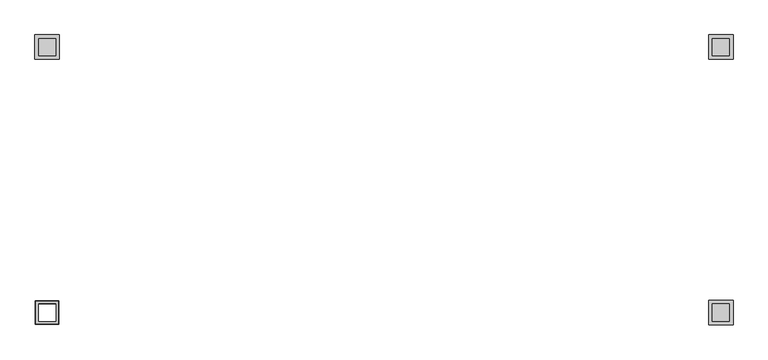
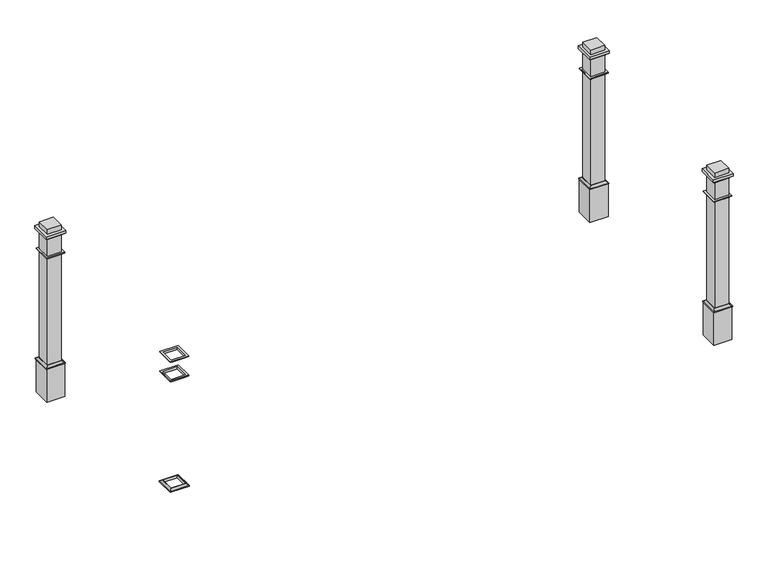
"""IFC4 building model written with IfcOpenShell, lengths in millimetres: railing geometry, Deco Type."""

from ifc_helpers import new_model, si_unit, frame, origin, place, context, project, spatial, polyline, ellipse_curve, outline, extrude, faceted_brep, source, transform, mapped, element, save
from ifc_brep_helpers import plane_surface, revolved_surface, advanced_brep


def railing_afaa1892(model_context):
    return source(origin(), model_context, "Body", "SolidModel", [
        advanced_brep(
        [(5407.8905852, -9796.5505549, 6197.6), (5287.2405852, -9796.5505549, 6197.6), (5287.2405852, -9796.5505549, 6219.825), (5407.8905852, -9796.5505549, 6219.825), (5430.1155852, -9818.7755549, 6203.95), (5265.0155852, -9818.7755549, 6203.95), (5265.0155852, -9818.7755549, 6197.6), (5430.1155852, -9818.7755549, 6197.6), (5414.2405852, -9802.9005549, 6219.825), (5280.8905852, -9802.9005549, 6219.825), (5287.2405852, -9675.9005549, 6197.6), (5287.2405852, -9675.9005549, 6219.825), (5265.0155852, -9653.6755549, 6203.95), (5265.0155852, -9653.6755549, 6197.6), (5280.8905852, -9669.5505549, 6219.825), (5407.8905852, -9675.9005549, 6197.6), (5407.8905852, -9675.9005549, 6219.825), (5430.1155852, -9653.6755549, 6203.95), (5430.1155852, -9653.6755549, 6197.6), (5414.2405852, -9669.5505549, 6219.825)],
        [
            (0, 1),
            (1, 2),
            (2, 3),
            (3, 0),
            (4, 5),
            (5, 6),
            (6, 7),
            (7, 4),
            (8, 9),
            (9, 5, ellipse_curve(frame((5265.0155852, -9818.7755549, 6219.825), z_axis=(-0.7071067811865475, 0.7071067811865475, 0.0), x_axis=(-0.7071067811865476, -0.7071067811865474, 0.0)), 22.4506403, 15.875)),
            (4, 8, ellipse_curve(frame((5430.1155852, -9818.7755549, 6219.825), z_axis=(0.7071067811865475, 0.7071067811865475, 0.0), x_axis=(-0.7071067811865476, 0.7071067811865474, 0.0)), 22.4506403, 15.875)),
            (1, 10),
            (10, 11),
            (11, 2),
            (5, 12),
            (12, 13),
            (13, 6),
            (9, 14),
            (14, 12, ellipse_curve(frame((5265.0155852, -9653.6755549, 6219.825), z_axis=(0.7071067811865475, 0.7071067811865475, 0.0), x_axis=(-0.7071067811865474, 0.7071067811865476, 0.0)), 22.4506403, 15.875)),
            (10, 15),
            (15, 16),
            (16, 11),
            (12, 17),
            (17, 18),
            (18, 13),
            (14, 19),
            (19, 17, ellipse_curve(frame((5430.1155852, -9653.6755549, 6219.825), z_axis=(0.7071067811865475, -0.7071067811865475, 0.0), x_axis=(0.7071067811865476, 0.7071067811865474, 0.0)), 22.4506403, 15.875)),
            (15, 0),
            (3, 16),
            (18, 7),
            (17, 4),
            (19, 8),
        ],
        [
            plane_surface(frame((5407.8905852, -9796.5505549, 6219.825), z_axis=(0.0, 1.0, 0.0), x_axis=(-1.0, 0.0, 0.0))),
            plane_surface(frame((5430.1155852, -9818.7755549, 6197.6), z_axis=(0.0, -1.0, 0.0), x_axis=(-1.0, 0.0, 0.0))),
            revolved_surface(polyline([(5249.14058520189, -9802.9005549, 6219.825), (5445.99058519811, -9802.9005549, 6219.825)]), (5407.8905852, -9818.7755549, 6219.825), (-1.0, 0.0, 0.0)),
            plane_surface(frame((5287.2405852, -9796.5505549, 6219.825), z_axis=(1.0, 0.0, 0.0), x_axis=(0.0, 1.0, 0.0))),
            plane_surface(frame((5265.0155852, -9818.7755549, 6197.6), z_axis=(-1.0, 0.0, 0.0), x_axis=(0.0, 1.0, 0.0))),
            revolved_surface(polyline([(5280.8905852, -9637.80055490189, 6219.825), (5280.8905852, -9834.65055489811, 6219.825)]), (5265.0155852, -9796.5505549, 6219.825), (0.0, 1.0, 0.0)),
            plane_surface(frame((5287.2405852, -9675.9005549, 6219.825), z_axis=(0.0, -1.0, 0.0), x_axis=(1.0, 0.0, 0.0))),
            plane_surface(frame((5265.0155852, -9653.6755549, 6197.6), z_axis=(0.0, 1.0, 0.0), x_axis=(1.0, 0.0, 0.0))),
            revolved_surface(polyline([(5445.99058519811, -9669.5505549, 6219.825), (5249.14058520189, -9669.5505549, 6219.825)]), (5287.2405852, -9653.6755549, 6219.825), (1.0, 0.0, 0.0)),
            plane_surface(frame((5407.8905852, -9675.9005549, 6219.825), z_axis=(-1.0, 0.0, 0.0), x_axis=(0.0, -1.0, 0.0))),
            plane_surface(frame((5407.8905852, -9675.9005549, 6197.6), z_axis=(0.0, 0.0, -1.0), x_axis=(0.0, -1.0, 0.0))),
            plane_surface(frame((5430.1155852, -9653.6755549, 6197.6), z_axis=(1.0, 0.0, 0.0), x_axis=(0.0, -1.0, 0.0))),
            revolved_surface(polyline([(5414.2405852, -9834.65055489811, 6219.825), (5414.2405852, -9637.80055490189, 6219.825)]), (5430.1155852, -9675.9005549, 6219.825), (0.0, -1.0, 0.0)),
            plane_surface(frame((5414.2405852, -9669.5505549, 6219.825), z_axis=(0.0, 0.0, 1.0), x_axis=(0.0, -1.0, 0.0))),
        ],
        [
            (0, [[1, 2, 3, 4]]),
            (1, [[5, 6, 7, 8]]),
            (2, [[9, 10, -5, 11]]),
            (3, [[12, 13, 14, -2]]),
            (4, [[15, 16, 17, -6]]),
            (5, [[18, 19, -15, -10]]),
            (6, [[20, 21, 22, -13]]),
            (7, [[23, 24, 25, -16]]),
            (8, [[26, 27, -23, -19]]),
            (9, [[28, -4, 29, -21]]),
            (10, [[-7, -17, -25, 30], [-1, -28, -20, -12]]),
            (11, [[31, -8, -30, -24]]),
            (12, [[32, -11, -31, -27]]),
            (13, [[-9, -32, -26, -18], [-3, -14, -22, -29]]),
        ],
    ),
        advanced_brep(
        [(5407.8905852, -9796.5505549, 7204.075), (5287.2405852, -9796.5505549, 7204.075), (5287.2405852, -9796.5505549, 7223.125), (5407.8905852, -9796.5505549, 7223.125), (5426.9405852, -9815.6005549, 7216.775), (5268.1905852, -9815.6005549, 7216.775), (5280.8905852, -9802.9005549, 7204.075), (5414.2405852, -9802.9005549, 7204.075), (5426.9405852, -9815.6005549, 7223.125), (5268.1905852, -9815.6005549, 7223.125), (5287.2405852, -9675.9005549, 7204.075), (5287.2405852, -9675.9005549, 7223.125), (5268.1905852, -9656.8505549, 7216.775), (5280.8905852, -9669.5505549, 7204.075), (5268.1905852, -9656.8505549, 7223.125), (5407.8905852, -9675.9005549, 7204.075), (5407.8905852, -9675.9005549, 7223.125), (5426.9405852, -9656.8505549, 7216.775), (5414.2405852, -9669.5505549, 7204.075), (5426.9405852, -9656.8505549, 7223.125)],
        [
            (0, 1),
            (1, 2),
            (2, 3),
            (3, 0),
            (4, 5),
            (5, 6, ellipse_curve(frame((5268.1905852, -9815.6005549, 7204.075), z_axis=(-0.7071067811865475, 0.7071067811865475, 0.0), x_axis=(-0.7071067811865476, -0.7071067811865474, 0.0)), 17.9605122, 12.7)),
            (6, 7),
            (7, 4, ellipse_curve(frame((5426.9405852, -9815.6005549, 7204.075), z_axis=(0.7071067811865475, 0.7071067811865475, 0.0), x_axis=(-0.7071067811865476, 0.7071067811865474, 0.0)), 17.9605122, 12.7)),
            (8, 9),
            (9, 5),
            (4, 8),
            (1, 10),
            (10, 11),
            (11, 2),
            (5, 12),
            (12, 13, ellipse_curve(frame((5268.1905852, -9656.8505549, 7204.075), z_axis=(0.7071067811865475, 0.7071067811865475, 0.0), x_axis=(-0.7071067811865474, 0.7071067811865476, 0.0)), 17.9605122, 12.7)),
            (13, 6),
            (9, 14),
            (14, 12),
            (10, 15),
            (15, 16),
            (16, 11),
            (12, 17),
            (17, 18, ellipse_curve(frame((5426.9405852, -9656.8505549, 7204.075), z_axis=(0.7071067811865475, -0.7071067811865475, 0.0), x_axis=(0.7071067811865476, 0.7071067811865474, 0.0)), 17.9605122, 12.7)),
            (18, 13),
            (14, 19),
            (19, 17),
            (8, 19),
            (16, 3),
            (15, 0),
            (18, 7),
            (17, 4),
        ],
        [
            plane_surface(frame((5407.8905852, -9796.5505549, 7223.125), z_axis=(0.0, 1.0, 0.0), x_axis=(-1.0, 0.0, 0.0))),
            revolved_surface(polyline([(5255.490585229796, -9802.9005549, 7204.075), (5439.640585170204, -9802.9005549, 7204.075)]), (5407.8905852, -9815.6005549, 7204.075), (-1.0, 0.0, 0.0)),
            plane_surface(frame((5426.9405852, -9815.6005549, 7216.775), z_axis=(0.0, -1.0, 0.0), x_axis=(-1.0, 0.0, 0.0))),
            plane_surface(frame((5287.2405852, -9796.5505549, 7223.125), z_axis=(1.0, 0.0, 0.0), x_axis=(0.0, 1.0, 0.0))),
            revolved_surface(polyline([(5280.8905852, -9644.150554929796, 7204.075), (5280.8905852, -9828.300554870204, 7204.075)]), (5268.1905852, -9796.5505549, 7204.075), (0.0, 1.0, 0.0)),
            plane_surface(frame((5268.1905852, -9815.6005549, 7216.775), z_axis=(-1.0, 0.0, 0.0), x_axis=(0.0, 1.0, 0.0))),
            plane_surface(frame((5287.2405852, -9675.9005549, 7223.125), z_axis=(0.0, -1.0, 0.0), x_axis=(1.0, 0.0, 0.0))),
            revolved_surface(polyline([(5439.640585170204, -9669.5505549, 7204.075), (5255.490585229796, -9669.5505549, 7204.075)]), (5287.2405852, -9656.8505549, 7204.075), (1.0, 0.0, 0.0)),
            plane_surface(frame((5268.1905852, -9656.8505549, 7216.775), z_axis=(0.0, 1.0, 0.0), x_axis=(1.0, 0.0, 0.0))),
            plane_surface(frame((5426.9405852, -9656.8505549, 7223.125), z_axis=(0.0, 0.0, 1.0), x_axis=(0.0, -1.0, 0.0))),
            plane_surface(frame((5407.8905852, -9675.9005549, 7223.125), z_axis=(-1.0, 0.0, 0.0), x_axis=(0.0, -1.0, 0.0))),
            plane_surface(frame((5407.8905852, -9675.9005549, 7204.075), z_axis=(0.0, 0.0, -1.0), x_axis=(0.0, -1.0, 0.0))),
            revolved_surface(polyline([(5414.2405852, -9828.300554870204, 7204.075), (5414.2405852, -9644.150554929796, 7204.075)]), (5426.9405852, -9675.9005549, 7204.075), (0.0, -1.0, 0.0)),
            plane_surface(frame((5426.9405852, -9656.8505549, 7216.775), z_axis=(1.0, 0.0, 0.0), x_axis=(0.0, -1.0, 0.0))),
        ],
        [
            (0, [[1, 2, 3, 4]]),
            (1, [[5, 6, 7, 8]]),
            (2, [[9, 10, -5, 11]]),
            (3, [[12, 13, 14, -2]]),
            (4, [[15, 16, 17, -6]]),
            (5, [[18, 19, -15, -10]]),
            (6, [[20, 21, 22, -13]]),
            (7, [[23, 24, 25, -16]]),
            (8, [[26, 27, -23, -19]]),
            (9, [[-9, 28, -26, -18], [-3, -14, -22, 29]]),
            (10, [[30, -4, -29, -21]]),
            (11, [[-7, -17, -25, 31], [-1, -30, -20, -12]]),
            (12, [[32, -8, -31, -24]]),
            (13, [[-28, -11, -32, -27]]),
        ],
    ),
        faceted_brep([(5407.8905852, -9796.5505549, 7381.875), (5287.2405852, -9796.5505549, 7381.875), (5287.2405852, -9796.5505549, 7400.925), (5407.8905852, -9796.5505549, 7400.925), (5414.2405852, -9802.9005549, 7394.575), (5280.8905852, -9802.9005549, 7394.575), (5280.8905852, -9802.9005549, 7381.875), (5414.2405852, -9802.9005549, 7381.875), (5426.9405852, -9815.6005549, 7400.925), (5268.1905852, -9815.6005549, 7400.925), (5268.1905852, -9815.6005549, 7394.575), (5426.9405852, -9815.6005549, 7394.575), (5287.2405852, -9675.9005549, 7381.875), (5287.2405852, -9675.9005549, 7400.925), (5280.8905852, -9669.5505549, 7394.575), (5280.8905852, -9669.5505549, 7381.875), (5268.1905852, -9656.8505549, 7400.925), (5268.1905852, -9656.8505549, 7394.575), (5407.8905852, -9675.9005549, 7381.875), (5407.8905852, -9675.9005549, 7400.925), (5414.2405852, -9669.5505549, 7394.575), (5414.2405852, -9669.5505549, 7381.875), (5426.9405852, -9656.8505549, 7400.925), (5426.9405852, -9656.8505549, 7394.575)], [[[0, 1, 2, 3]], [[4, 5, 6, 7]], [[8, 9, 10, 11]], [[1, 12, 13, 2]], [[5, 14, 15, 6]], [[9, 16, 17, 10]], [[12, 18, 19, 13]], [[14, 20, 21, 15]], [[16, 22, 23, 17]], [[18, 0, 3, 19]], [[7, 6, 15, 21], [1, 0, 18, 12]], [[20, 4, 7, 21]], [[11, 10, 17, 23], [5, 4, 20, 14]], [[22, 8, 11, 23]], [[9, 8, 22, 16], [3, 2, 13, 19]]]),
        extrude(outline(polyline([(10010.8468352, -9656.8505549), (10169.5968352, -9656.8505549), (10169.5968352, -9815.6005549), (10010.8468352, -9815.6005549), (10010.8468352, -9656.8505549)])), frame((0.0, 0.0, 5892.8), z_axis=(0.0, 0.0, 1.0), x_axis=(1.0, 0.0, 0.0)), (0.0, 0.0, 1.0), 304.8),
        extrude(outline(polyline([(10029.8968352, -9675.9005549), (10150.5468352, -9675.9005549), (10150.5468352, -9796.5505549), (10029.8968352, -9796.5505549), (10029.8968352, -9675.9005549)])), frame((0.0, 0.0, 6197.6), z_axis=(0.0, 0.0, 1.0), x_axis=(1.0, 0.0, 0.0)), (0.0, 0.0, 1.0), 1270.0),
        extrude(outline(polyline([(10175.9468352, -9650.5005549), (10175.9468352, -9821.9505549), (10004.4968352, -9821.9505549), (10004.4968352, -9650.5005549), (10175.9468352, -9650.5005549)]), holes=[polyline([(10150.5468352, -9796.5505549), (10150.5468352, -9675.9005549), (10029.8968352, -9675.9005549), (10029.8968352, -9796.5505549), (10150.5468352, -9796.5505549)])]), frame((0.0, 0.0, 7400.925), z_axis=(0.0, 0.0, 1.0), x_axis=(1.0, 0.0, 0.0)), (0.0, 0.0, 1.0), 25.4),
        advanced_brep(
        [(10150.5468352, -9675.9005549, 6197.6), (10150.5468352, -9796.5505549, 6197.6), (10150.5468352, -9796.5505549, 6219.825), (10150.5468352, -9675.9005549, 6219.825), (10172.7718352, -9653.6755549, 6203.95), (10172.7718352, -9818.7755549, 6203.95), (10172.7718352, -9818.7755549, 6197.6), (10172.7718352, -9653.6755549, 6197.6), (10156.8968352, -9669.5505549, 6219.825), (10156.8968352, -9802.9005549, 6219.825), (10029.8968352, -9796.5505549, 6197.6), (10029.8968352, -9796.5505549, 6219.825), (10007.6718352, -9818.7755549, 6203.95), (10007.6718352, -9818.7755549, 6197.6), (10023.5468352, -9802.9005549, 6219.825), (10029.8968352, -9675.9005549, 6197.6), (10029.8968352, -9675.9005549, 6219.825), (10007.6718352, -9653.6755549, 6203.95), (10007.6718352, -9653.6755549, 6197.6), (10023.5468352, -9669.5505549, 6219.825)],
        [
            (0, 1),
            (1, 2),
            (2, 3),
            (3, 0),
            (4, 5),
            (5, 6),
            (6, 7),
            (7, 4),
            (8, 9),
            (9, 5, ellipse_curve(frame((10172.7718352, -9818.7755549, 6219.825), z_axis=(-0.7071067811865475, -0.7071067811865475, 0.0), x_axis=(0.7071067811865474, -0.7071067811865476, 0.0)), 22.4506403, 15.875)),
            (4, 8, ellipse_curve(frame((10172.7718352, -9653.6755549, 6219.825), z_axis=(-0.7071067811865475, 0.7071067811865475, 0.0), x_axis=(-0.7071067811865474, -0.7071067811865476, 0.0)), 22.4506403, 15.875)),
            (1, 10),
            (10, 11),
            (11, 2),
            (5, 12),
            (12, 13),
            (13, 6),
            (9, 14),
            (14, 12, ellipse_curve(frame((10007.6718352, -9818.7755549, 6219.825), z_axis=(-0.7071067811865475, 0.7071067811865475, 0.0), x_axis=(-0.7071067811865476, -0.7071067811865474, 0.0)), 22.4506403, 15.875)),
            (10, 15),
            (15, 16),
            (16, 11),
            (12, 17),
            (17, 18),
            (18, 13),
            (14, 19),
            (19, 17, ellipse_curve(frame((10007.6718352, -9653.6755549, 6219.825), z_axis=(0.7071067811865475, 0.7071067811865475, 0.0), x_axis=(-0.7071067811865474, 0.7071067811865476, 0.0)), 22.4506403, 15.875)),
            (15, 0),
            (3, 16),
            (18, 7),
            (17, 4),
            (19, 8),
        ],
        [
            plane_surface(frame((10150.5468352, -9675.9005549, 6219.825), z_axis=(-1.0, 0.0, 0.0), x_axis=(0.0, -1.0, 0.0))),
            plane_surface(frame((10172.7718352, -9653.6755549, 6197.6), z_axis=(1.0, 0.0, 0.0), x_axis=(0.0, -1.0, 0.0))),
            revolved_surface(polyline([(10156.8968352, -9834.65055489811, 6219.825), (10156.8968352, -9637.80055490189, 6219.825)]), (10172.7718352, -9675.9005549, 6219.825), (0.0, -1.0, 0.0)),
            plane_surface(frame((10150.5468352, -9796.5505549, 6219.825), z_axis=(0.0, 1.0, 0.0), x_axis=(-1.0, 0.0, 0.0))),
            plane_surface(frame((10172.7718352, -9818.7755549, 6197.6), z_axis=(0.0, -1.0, 0.0), x_axis=(-1.0, 0.0, 0.0))),
            revolved_surface(polyline([(9991.79683520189, -9802.9005549, 6219.825), (10188.64683519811, -9802.9005549, 6219.825)]), (10150.5468352, -9818.7755549, 6219.825), (-1.0, 0.0, 0.0)),
            plane_surface(frame((10029.8968352, -9796.5505549, 6219.825), z_axis=(1.0, 0.0, 0.0), x_axis=(0.0, 1.0, 0.0))),
            plane_surface(frame((10007.6718352, -9818.7755549, 6197.6), z_axis=(-1.0, 0.0, 0.0), x_axis=(0.0, 1.0, 0.0))),
            revolved_surface(polyline([(10023.5468352, -9637.80055490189, 6219.825), (10023.5468352, -9834.65055489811, 6219.825)]), (10007.6718352, -9796.5505549, 6219.825), (0.0, 1.0, 0.0)),
            plane_surface(frame((10029.8968352, -9675.9005549, 6219.825), z_axis=(0.0, -1.0, 0.0), x_axis=(1.0, 0.0, 0.0))),
            plane_surface(frame((10029.8968352, -9675.9005549, 6197.6), z_axis=(0.0, 0.0, -1.0), x_axis=(1.0, 0.0, 0.0))),
            plane_surface(frame((10007.6718352, -9653.6755549, 6197.6), z_axis=(0.0, 1.0, 0.0), x_axis=(1.0, 0.0, 0.0))),
            revolved_surface(polyline([(10188.64683519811, -9669.5505549, 6219.825), (9991.79683520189, -9669.5505549, 6219.825)]), (10029.8968352, -9653.6755549, 6219.825), (1.0, 0.0, 0.0)),
            plane_surface(frame((10023.5468352, -9669.5505549, 6219.825), z_axis=(0.0, 0.0, 1.0), x_axis=(1.0, 0.0, 0.0))),
        ],
        [
            (0, [[1, 2, 3, 4]]),
            (1, [[5, 6, 7, 8]]),
            (2, [[9, 10, -5, 11]]),
            (3, [[12, 13, 14, -2]]),
            (4, [[15, 16, 17, -6]]),
            (5, [[18, 19, -15, -10]]),
            (6, [[20, 21, 22, -13]]),
            (7, [[23, 24, 25, -16]]),
            (8, [[26, 27, -23, -19]]),
            (9, [[28, -4, 29, -21]]),
            (10, [[-7, -17, -25, 30], [-1, -28, -20, -12]]),
            (11, [[31, -8, -30, -24]]),
            (12, [[32, -11, -31, -27]]),
            (13, [[-9, -32, -26, -18], [-3, -14, -22, -29]]),
        ],
    ),
        advanced_brep(
        [(10150.5468352, -9675.9005549, 7204.075), (10150.5468352, -9796.5505549, 7204.075), (10150.5468352, -9796.5505549, 7223.125), (10150.5468352, -9675.9005549, 7223.125), (10169.5968352, -9656.8505549, 7216.775), (10169.5968352, -9815.6005549, 7216.775), (10156.8968352, -9802.9005549, 7204.075), (10156.8968352, -9669.5505549, 7204.075), (10169.5968352, -9656.8505549, 7223.125), (10169.5968352, -9815.6005549, 7223.125), (10029.8968352, -9796.5505549, 7204.075), (10029.8968352, -9796.5505549, 7223.125), (10010.8468352, -9815.6005549, 7216.775), (10023.5468352, -9802.9005549, 7204.075), (10010.8468352, -9815.6005549, 7223.125), (10029.8968352, -9675.9005549, 7204.075), (10029.8968352, -9675.9005549, 7223.125), (10010.8468352, -9656.8505549, 7216.775), (10023.5468352, -9669.5505549, 7204.075), (10010.8468352, -9656.8505549, 7223.125)],
        [
            (0, 1),
            (1, 2),
            (2, 3),
            (3, 0),
            (4, 5),
            (5, 6, ellipse_curve(frame((10169.5968352, -9815.6005549, 7204.075), z_axis=(-0.7071067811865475, -0.7071067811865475, 0.0), x_axis=(0.7071067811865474, -0.7071067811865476, 0.0)), 17.9605122, 12.7)),
            (6, 7),
            (7, 4, ellipse_curve(frame((10169.5968352, -9656.8505549, 7204.075), z_axis=(-0.7071067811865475, 0.7071067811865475, 0.0), x_axis=(-0.7071067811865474, -0.7071067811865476, 0.0)), 17.9605122, 12.7)),
            (8, 9),
            (9, 5),
            (4, 8),
            (1, 10),
            (10, 11),
            (11, 2),
            (5, 12),
            (12, 13, ellipse_curve(frame((10010.8468352, -9815.6005549, 7204.075), z_axis=(-0.7071067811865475, 0.7071067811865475, 0.0), x_axis=(-0.7071067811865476, -0.7071067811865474, 0.0)), 17.9605122, 12.7)),
            (13, 6),
            (9, 14),
            (14, 12),
            (10, 15),
            (15, 16),
            (16, 11),
            (12, 17),
            (17, 18, ellipse_curve(frame((10010.8468352, -9656.8505549, 7204.075), z_axis=(0.7071067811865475, 0.7071067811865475, 0.0), x_axis=(-0.7071067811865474, 0.7071067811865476, 0.0)), 17.9605122, 12.7)),
            (18, 13),
            (14, 19),
            (19, 17),
            (8, 19),
            (16, 3),
            (15, 0),
            (18, 7),
            (17, 4),
        ],
        [
            plane_surface(frame((10150.5468352, -9675.9005549, 7223.125), z_axis=(-1.0, 0.0, 0.0), x_axis=(0.0, -1.0, 0.0))),
            revolved_surface(polyline([(10156.8968352, -9828.300554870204, 7204.075), (10156.8968352, -9644.150554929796, 7204.075)]), (10169.5968352, -9675.9005549, 7204.075), (0.0, -1.0, 0.0)),
            plane_surface(frame((10169.5968352, -9656.8505549, 7216.775), z_axis=(1.0, 0.0, 0.0), x_axis=(0.0, -1.0, 0.0))),
            plane_surface(frame((10150.5468352, -9796.5505549, 7223.125), z_axis=(0.0, 1.0, 0.0), x_axis=(-1.0, 0.0, 0.0))),
            revolved_surface(polyline([(9998.146835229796, -9802.9005549, 7204.075), (10182.296835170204, -9802.9005549, 7204.075)]), (10150.5468352, -9815.6005549, 7204.075), (-1.0, 0.0, 0.0)),
            plane_surface(frame((10169.5968352, -9815.6005549, 7216.775), z_axis=(0.0, -1.0, 0.0), x_axis=(-1.0, 0.0, 0.0))),
            plane_surface(frame((10029.8968352, -9796.5505549, 7223.125), z_axis=(1.0, 0.0, 0.0), x_axis=(0.0, 1.0, 0.0))),
            revolved_surface(polyline([(10023.5468352, -9644.150554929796, 7204.075), (10023.5468352, -9828.300554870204, 7204.075)]), (10010.8468352, -9796.5505549, 7204.075), (0.0, 1.0, 0.0)),
            plane_surface(frame((10010.8468352, -9815.6005549, 7216.775), z_axis=(-1.0, 0.0, 0.0), x_axis=(0.0, 1.0, 0.0))),
            plane_surface(frame((10010.8468352, -9656.8505549, 7223.125), z_axis=(0.0, 0.0, 1.0), x_axis=(1.0, 0.0, 0.0))),
            plane_surface(frame((10029.8968352, -9675.9005549, 7223.125), z_axis=(0.0, -1.0, 0.0), x_axis=(1.0, 0.0, 0.0))),
            plane_surface(frame((10029.8968352, -9675.9005549, 7204.075), z_axis=(0.0, 0.0, -1.0), x_axis=(1.0, 0.0, 0.0))),
            revolved_surface(polyline([(10182.296835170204, -9669.5505549, 7204.075), (9998.146835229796, -9669.5505549, 7204.075)]), (10029.8968352, -9656.8505549, 7204.075), (1.0, 0.0, 0.0)),
            plane_surface(frame((10010.8468352, -9656.8505549, 7216.775), z_axis=(0.0, 1.0, 0.0), x_axis=(1.0, 0.0, 0.0))),
        ],
        [
            (0, [[1, 2, 3, 4]]),
            (1, [[5, 6, 7, 8]]),
            (2, [[9, 10, -5, 11]]),
            (3, [[12, 13, 14, -2]]),
            (4, [[15, 16, 17, -6]]),
            (5, [[18, 19, -15, -10]]),
            (6, [[20, 21, 22, -13]]),
            (7, [[23, 24, 25, -16]]),
            (8, [[26, 27, -23, -19]]),
            (9, [[-9, 28, -26, -18], [-3, -14, -22, 29]]),
            (10, [[30, -4, -29, -21]]),
            (11, [[-7, -17, -25, 31], [-1, -30, -20, -12]]),
            (12, [[32, -8, -31, -24]]),
            (13, [[-28, -11, -32, -27]]),
        ],
    ),
        faceted_brep([(10150.5468352, -9675.9005549, 7381.875), (10150.5468352, -9796.5505549, 7381.875), (10150.5468352, -9796.5505549, 7400.925), (10150.5468352, -9675.9005549, 7400.925), (10156.8968352, -9669.5505549, 7394.575), (10156.8968352, -9802.9005549, 7394.575), (10156.8968352, -9802.9005549, 7381.875), (10156.8968352, -9669.5505549, 7381.875), (10169.5968352, -9656.8505549, 7400.925), (10169.5968352, -9815.6005549, 7400.925), (10169.5968352, -9815.6005549, 7394.575), (10169.5968352, -9656.8505549, 7394.575), (10029.8968352, -9796.5505549, 7381.875), (10029.8968352, -9796.5505549, 7400.925), (10023.5468352, -9802.9005549, 7394.575), (10023.5468352, -9802.9005549, 7381.875), (10010.8468352, -9815.6005549, 7400.925), (10010.8468352, -9815.6005549, 7394.575), (10029.8968352, -9675.9005549, 7381.875), (10029.8968352, -9675.9005549, 7400.925), (10023.5468352, -9669.5505549, 7394.575), (10023.5468352, -9669.5505549, 7381.875), (10010.8468352, -9656.8505549, 7400.925), (10010.8468352, -9656.8505549, 7394.575)], [[[0, 1, 2, 3]], [[4, 5, 6, 7]], [[8, 9, 10, 11]], [[1, 12, 13, 2]], [[5, 14, 15, 6]], [[9, 16, 17, 10]], [[12, 18, 19, 13]], [[14, 20, 21, 15]], [[16, 22, 23, 17]], [[18, 0, 3, 19]], [[7, 6, 15, 21], [1, 0, 18, 12]], [[20, 4, 7, 21]], [[11, 10, 17, 23], [5, 4, 20, 14]], [[22, 8, 11, 23]], [[9, 8, 22, 16], [3, 2, 13, 19]]]),
        extrude(outline(polyline([(5426.9405852, -7943.5411799), (5268.1905852, -7943.5411799), (5268.1905852, -7784.7911799), (5426.9405852, -7784.7911799), (5426.9405852, -7943.5411799)])), frame((0.0, 0.0, 5892.8), z_axis=(0.0, 0.0, 1.0), x_axis=(1.0, 0.0, 0.0)), (0.0, 0.0, 1.0), 304.8),
        extrude(outline(polyline([(5407.8905852, -7924.4911799), (5287.2405852, -7924.4911799), (5287.2405852, -7803.8411799), (5407.8905852, -7803.8411799), (5407.8905852, -7924.4911799)])), frame((0.0, 0.0, 6197.6), z_axis=(0.0, 0.0, 1.0), x_axis=(1.0, 0.0, 0.0)), (0.0, 0.0, 1.0), 1270.0),
        extrude(outline(polyline([(5261.8405852, -7949.8911799), (5261.8405852, -7778.4411799), (5433.2905852, -7778.4411799), (5433.2905852, -7949.8911799), (5261.8405852, -7949.8911799)]), holes=[polyline([(5287.2405852, -7803.8411799), (5287.2405852, -7924.4911799), (5407.8905852, -7924.4911799), (5407.8905852, -7803.8411799), (5287.2405852, -7803.8411799)])]), frame((0.0, 0.0, 7400.925), z_axis=(0.0, 0.0, 1.0), x_axis=(1.0, 0.0, 0.0)), (0.0, 0.0, 1.0), 25.4),
        advanced_brep(
        [(5287.2405852, -7924.4911799, 6197.6), (5287.2405852, -7803.8411799, 6197.6), (5287.2405852, -7803.8411799, 6219.825), (5287.2405852, -7924.4911799, 6219.825), (5265.0155852, -7946.7161799, 6203.95), (5265.0155852, -7781.6161799, 6203.95), (5265.0155852, -7781.6161799, 6197.6), (5265.0155852, -7946.7161799, 6197.6), (5280.8905852, -7930.8411799, 6219.825), (5280.8905852, -7797.4911799, 6219.825), (5407.8905852, -7803.8411799, 6197.6), (5407.8905852, -7803.8411799, 6219.825), (5430.1155852, -7781.6161799, 6203.95), (5430.1155852, -7781.6161799, 6197.6), (5414.2405852, -7797.4911799, 6219.825), (5407.8905852, -7924.4911799, 6197.6), (5407.8905852, -7924.4911799, 6219.825), (5430.1155852, -7946.7161799, 6203.95), (5430.1155852, -7946.7161799, 6197.6), (5414.2405852, -7930.8411799, 6219.825)],
        [
            (0, 1),
            (1, 2),
            (2, 3),
            (3, 0),
            (4, 5),
            (5, 6),
            (6, 7),
            (7, 4),
            (8, 9),
            (9, 5, ellipse_curve(frame((5265.0155852, -7781.6161799, 6219.825), z_axis=(0.7071067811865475, 0.7071067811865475, 0.0), x_axis=(-0.7071067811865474, 0.7071067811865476, 0.0)), 22.4506403, 15.875)),
            (4, 8, ellipse_curve(frame((5265.0155852, -7946.7161799, 6219.825), z_axis=(0.7071067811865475, -0.7071067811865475, 0.0), x_axis=(0.7071067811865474, 0.7071067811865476, 0.0)), 22.4506403, 15.875)),
            (1, 10),
            (10, 11),
            (11, 2),
            (5, 12),
            (12, 13),
            (13, 6),
            (9, 14),
            (14, 12, ellipse_curve(frame((5430.1155852, -7781.6161799, 6219.825), z_axis=(0.7071067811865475, -0.7071067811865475, 0.0), x_axis=(0.7071067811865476, 0.7071067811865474, 0.0)), 22.4506403, 15.875)),
            (10, 15),
            (15, 16),
            (16, 11),
            (12, 17),
            (17, 18),
            (18, 13),
            (14, 19),
            (19, 17, ellipse_curve(frame((5430.1155852, -7946.7161799, 6219.825), z_axis=(-0.7071067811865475, -0.7071067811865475, 0.0), x_axis=(0.7071067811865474, -0.7071067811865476, 0.0)), 22.4506403, 15.875)),
            (15, 0),
            (3, 16),
            (18, 7),
            (17, 4),
            (19, 8),
        ],
        [
            plane_surface(frame((5287.2405852, -7924.4911799, 6219.825), z_axis=(1.0, 0.0, 0.0), x_axis=(0.0, 1.0, 0.0))),
            plane_surface(frame((5265.0155852, -7946.7161799, 6197.6), z_axis=(-1.0, 0.0, 0.0), x_axis=(0.0, 1.0, 0.0))),
            revolved_surface(polyline([(5280.8905852, -7765.74117990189, 6219.825), (5280.8905852, -7962.59117989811, 6219.825)]), (5265.0155852, -7924.4911799, 6219.825), (0.0, 1.0, 0.0)),
            plane_surface(frame((5287.2405852, -7803.8411799, 6219.825), z_axis=(0.0, -1.0, 0.0), x_axis=(1.0, 0.0, 0.0))),
            plane_surface(frame((5265.0155852, -7781.6161799, 6197.6), z_axis=(0.0, 1.0, 0.0), x_axis=(1.0, 0.0, 0.0))),
            revolved_surface(polyline([(5445.99058519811, -7797.4911799, 6219.825), (5249.14058520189, -7797.4911799, 6219.825)]), (5287.2405852, -7781.6161799, 6219.825), (1.0, 0.0, 0.0)),
            plane_surface(frame((5407.8905852, -7803.8411799, 6219.825), z_axis=(-1.0, 0.0, 0.0), x_axis=(0.0, -1.0, 0.0))),
            plane_surface(frame((5430.1155852, -7781.6161799, 6197.6), z_axis=(1.0, 0.0, 0.0), x_axis=(0.0, -1.0, 0.0))),
            revolved_surface(polyline([(5414.2405852, -7962.59117989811, 6219.825), (5414.2405852, -7765.74117990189, 6219.825)]), (5430.1155852, -7803.8411799, 6219.825), (0.0, -1.0, 0.0)),
            plane_surface(frame((5407.8905852, -7924.4911799, 6219.825), z_axis=(0.0, 1.0, 0.0), x_axis=(-1.0, 0.0, 0.0))),
            plane_surface(frame((5407.8905852, -7924.4911799, 6197.6), z_axis=(0.0, 0.0, -1.0), x_axis=(-1.0, 0.0, 0.0))),
            plane_surface(frame((5430.1155852, -7946.7161799, 6197.6), z_axis=(0.0, -1.0, 0.0), x_axis=(-1.0, 0.0, 0.0))),
            revolved_surface(polyline([(5249.14058520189, -7930.8411799, 6219.825), (5445.99058519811, -7930.8411799, 6219.825)]), (5407.8905852, -7946.7161799, 6219.825), (-1.0, 0.0, 0.0)),
            plane_surface(frame((5414.2405852, -7930.8411799, 6219.825), z_axis=(0.0, 0.0, 1.0), x_axis=(-1.0, 0.0, 0.0))),
        ],
        [
            (0, [[1, 2, 3, 4]]),
            (1, [[5, 6, 7, 8]]),
            (2, [[9, 10, -5, 11]]),
            (3, [[12, 13, 14, -2]]),
            (4, [[15, 16, 17, -6]]),
            (5, [[18, 19, -15, -10]]),
            (6, [[20, 21, 22, -13]]),
            (7, [[23, 24, 25, -16]]),
            (8, [[26, 27, -23, -19]]),
            (9, [[28, -4, 29, -21]]),
            (10, [[-7, -17, -25, 30], [-1, -28, -20, -12]]),
            (11, [[31, -8, -30, -24]]),
            (12, [[32, -11, -31, -27]]),
            (13, [[-9, -32, -26, -18], [-3, -14, -22, -29]]),
        ],
    ),
        advanced_brep(
        [(5287.2405852, -7924.4911799, 7204.075), (5287.2405852, -7803.8411799, 7204.075), (5287.2405852, -7803.8411799, 7223.125), (5287.2405852, -7924.4911799, 7223.125), (5268.1905852, -7943.5411799, 7216.775), (5268.1905852, -7784.7911799, 7216.775), (5280.8905852, -7797.4911799, 7204.075), (5280.8905852, -7930.8411799, 7204.075), (5268.1905852, -7943.5411799, 7223.125), (5268.1905852, -7784.7911799, 7223.125), (5407.8905852, -7803.8411799, 7204.075), (5407.8905852, -7803.8411799, 7223.125), (5426.9405852, -7784.7911799, 7216.775), (5414.2405852, -7797.4911799, 7204.075), (5426.9405852, -7784.7911799, 7223.125), (5407.8905852, -7924.4911799, 7204.075), (5407.8905852, -7924.4911799, 7223.125), (5426.9405852, -7943.5411799, 7216.775), (5414.2405852, -7930.8411799, 7204.075), (5426.9405852, -7943.5411799, 7223.125)],
        [
            (0, 1),
            (1, 2),
            (2, 3),
            (3, 0),
            (4, 5),
            (5, 6, ellipse_curve(frame((5268.1905852, -7784.7911799, 7204.075), z_axis=(0.7071067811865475, 0.7071067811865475, 0.0), x_axis=(-0.7071067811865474, 0.7071067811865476, 0.0)), 17.9605122, 12.7)),
            (6, 7),
            (7, 4, ellipse_curve(frame((5268.1905852, -7943.5411799, 7204.075), z_axis=(0.7071067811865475, -0.7071067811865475, 0.0), x_axis=(0.7071067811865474, 0.7071067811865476, 0.0)), 17.9605122, 12.7)),
            (8, 9),
            (9, 5),
            (4, 8),
            (1, 10),
            (10, 11),
            (11, 2),
            (5, 12),
            (12, 13, ellipse_curve(frame((5426.9405852, -7784.7911799, 7204.075), z_axis=(0.7071067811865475, -0.7071067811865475, 0.0), x_axis=(0.7071067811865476, 0.7071067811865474, 0.0)), 17.9605122, 12.7)),
            (13, 6),
            (9, 14),
            (14, 12),
            (10, 15),
            (15, 16),
            (16, 11),
            (12, 17),
            (17, 18, ellipse_curve(frame((5426.9405852, -7943.5411799, 7204.075), z_axis=(-0.7071067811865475, -0.7071067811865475, 0.0), x_axis=(0.7071067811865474, -0.7071067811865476, 0.0)), 17.9605122, 12.7)),
            (18, 13),
            (14, 19),
            (19, 17),
            (8, 19),
            (16, 3),
            (15, 0),
            (18, 7),
            (17, 4),
        ],
        [
            plane_surface(frame((5287.2405852, -7924.4911799, 7223.125), z_axis=(1.0, 0.0, 0.0), x_axis=(0.0, 1.0, 0.0))),
            revolved_surface(polyline([(5280.8905852, -7772.091179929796, 7204.075), (5280.8905852, -7956.241179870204, 7204.075)]), (5268.1905852, -7924.4911799, 7204.075), (0.0, 1.0, 0.0)),
            plane_surface(frame((5268.1905852, -7943.5411799, 7216.775), z_axis=(-1.0, 0.0, 0.0), x_axis=(0.0, 1.0, 0.0))),
            plane_surface(frame((5287.2405852, -7803.8411799, 7223.125), z_axis=(0.0, -1.0, 0.0), x_axis=(1.0, 0.0, 0.0))),
            revolved_surface(polyline([(5439.640585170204, -7797.4911799, 7204.075), (5255.490585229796, -7797.4911799, 7204.075)]), (5287.2405852, -7784.7911799, 7204.075), (1.0, 0.0, 0.0)),
            plane_surface(frame((5268.1905852, -7784.7911799, 7216.775), z_axis=(0.0, 1.0, 0.0), x_axis=(1.0, 0.0, 0.0))),
            plane_surface(frame((5407.8905852, -7803.8411799, 7223.125), z_axis=(-1.0, 0.0, 0.0), x_axis=(0.0, -1.0, 0.0))),
            revolved_surface(polyline([(5414.2405852, -7956.241179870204, 7204.075), (5414.2405852, -7772.091179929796, 7204.075)]), (5426.9405852, -7803.8411799, 7204.075), (0.0, -1.0, 0.0)),
            plane_surface(frame((5426.9405852, -7784.7911799, 7216.775), z_axis=(1.0, 0.0, 0.0), x_axis=(0.0, -1.0, 0.0))),
            plane_surface(frame((5426.9405852, -7943.5411799, 7223.125), z_axis=(0.0, 0.0, 1.0), x_axis=(-1.0, 0.0, 0.0))),
            plane_surface(frame((5407.8905852, -7924.4911799, 7223.125), z_axis=(0.0, 1.0, 0.0), x_axis=(-1.0, 0.0, 0.0))),
            plane_surface(frame((5407.8905852, -7924.4911799, 7204.075), z_axis=(0.0, 0.0, -1.0), x_axis=(-1.0, 0.0, 0.0))),
            revolved_surface(polyline([(5255.490585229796, -7930.8411799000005, 7204.075), (5439.640585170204, -7930.8411799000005, 7204.075)]), (5407.8905852, -7943.5411799, 7204.075), (-1.0, 0.0, 0.0)),
            plane_surface(frame((5426.9405852, -7943.5411799, 7216.775), z_axis=(0.0, -1.0, 0.0), x_axis=(-1.0, 0.0, 0.0))),
        ],
        [
            (0, [[1, 2, 3, 4]]),
            (1, [[5, 6, 7, 8]]),
            (2, [[9, 10, -5, 11]]),
            (3, [[12, 13, 14, -2]]),
            (4, [[15, 16, 17, -6]]),
            (5, [[18, 19, -15, -10]]),
            (6, [[20, 21, 22, -13]]),
            (7, [[23, 24, 25, -16]]),
            (8, [[26, 27, -23, -19]]),
            (9, [[-9, 28, -26, -18], [-3, -14, -22, 29]]),
            (10, [[30, -4, -29, -21]]),
            (11, [[-7, -17, -25, 31], [-1, -30, -20, -12]]),
            (12, [[32, -8, -31, -24]]),
            (13, [[-28, -11, -32, -27]]),
        ],
    ),
        faceted_brep([(5287.2405852, -7924.4911799, 7381.875), (5287.2405852, -7803.8411799, 7381.875), (5287.2405852, -7803.8411799, 7400.925), (5287.2405852, -7924.4911799, 7400.925), (5280.8905852, -7930.8411799, 7394.575), (5280.8905852, -7797.4911799, 7394.575), (5280.8905852, -7797.4911799, 7381.875), (5280.8905852, -7930.8411799, 7381.875), (5268.1905852, -7943.5411799, 7400.925), (5268.1905852, -7784.7911799, 7400.925), (5268.1905852, -7784.7911799, 7394.575), (5268.1905852, -7943.5411799, 7394.575), (5407.8905852, -7803.8411799, 7381.875), (5407.8905852, -7803.8411799, 7400.925), (5414.2405852, -7797.4911799, 7394.575), (5414.2405852, -7797.4911799, 7381.875), (5426.9405852, -7784.7911799, 7400.925), (5426.9405852, -7784.7911799, 7394.575), (5407.8905852, -7924.4911799, 7381.875), (5407.8905852, -7924.4911799, 7400.925), (5414.2405852, -7930.8411799, 7394.575), (5414.2405852, -7930.8411799, 7381.875), (5426.9405852, -7943.5411799, 7400.925), (5426.9405852, -7943.5411799, 7394.575)], [[[0, 1, 2, 3]], [[4, 5, 6, 7]], [[8, 9, 10, 11]], [[1, 12, 13, 2]], [[5, 14, 15, 6]], [[9, 16, 17, 10]], [[12, 18, 19, 13]], [[14, 20, 21, 15]], [[16, 22, 23, 17]], [[18, 0, 3, 19]], [[7, 6, 15, 21], [1, 0, 18, 12]], [[20, 4, 7, 21]], [[11, 10, 17, 23], [5, 4, 20, 14]], [[22, 8, 11, 23]], [[9, 8, 22, 16], [3, 2, 13, 19]]]),
        extrude(outline(polyline([(10010.8468352, -7784.7911799), (10169.5968352, -7784.7911799), (10169.5968352, -7943.5411799), (10010.8468352, -7943.5411799), (10010.8468352, -7784.7911799)])), frame((0.0, 0.0, 5892.8), z_axis=(0.0, 0.0, 1.0), x_axis=(1.0, 0.0, 0.0)), (0.0, 0.0, 1.0), 304.8),
        extrude(outline(polyline([(10029.8968352, -7803.8411799), (10150.5468352, -7803.8411799), (10150.5468352, -7924.4911799), (10029.8968352, -7924.4911799), (10029.8968352, -7803.8411799)])), frame((0.0, 0.0, 6197.6), z_axis=(0.0, 0.0, 1.0), x_axis=(1.0, 0.0, 0.0)), (0.0, 0.0, 1.0), 1270.0),
        extrude(outline(polyline([(10175.9468352, -7778.4411799), (10175.9468352, -7949.8911799), (10004.4968352, -7949.8911799), (10004.4968352, -7778.4411799), (10175.9468352, -7778.4411799)]), holes=[polyline([(10150.5468352, -7924.4911799), (10150.5468352, -7803.8411799), (10029.8968352, -7803.8411799), (10029.8968352, -7924.4911799), (10150.5468352, -7924.4911799)])]), frame((0.0, 0.0, 7400.925), z_axis=(0.0, 0.0, 1.0), x_axis=(1.0, 0.0, 0.0)), (0.0, 0.0, 1.0), 25.4),
        advanced_brep(
        [(10150.5468352, -7803.8411799, 6197.6), (10150.5468352, -7924.4911799, 6197.6), (10150.5468352, -7924.4911799, 6219.825), (10150.5468352, -7803.8411799, 6219.825), (10172.7718352, -7781.6161799, 6203.95), (10172.7718352, -7946.7161799, 6203.95), (10172.7718352, -7946.7161799, 6197.6), (10172.7718352, -7781.6161799, 6197.6), (10156.8968352, -7797.4911799, 6219.825), (10156.8968352, -7930.8411799, 6219.825), (10029.8968352, -7924.4911799, 6197.6), (10029.8968352, -7924.4911799, 6219.825), (10007.6718352, -7946.7161799, 6203.95), (10007.6718352, -7946.7161799, 6197.6), (10023.5468352, -7930.8411799, 6219.825), (10029.8968352, -7803.8411799, 6197.6), (10029.8968352, -7803.8411799, 6219.825), (10007.6718352, -7781.6161799, 6203.95), (10007.6718352, -7781.6161799, 6197.6), (10023.5468352, -7797.4911799, 6219.825)],
        [
            (0, 1),
            (1, 2),
            (2, 3),
            (3, 0),
            (4, 5),
            (5, 6),
            (6, 7),
            (7, 4),
            (8, 9),
            (9, 5, ellipse_curve(frame((10172.7718352, -7946.7161799, 6219.825), z_axis=(-0.7071067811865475, -0.7071067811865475, 0.0), x_axis=(0.7071067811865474, -0.7071067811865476, 0.0)), 22.4506403, 15.875)),
            (4, 8, ellipse_curve(frame((10172.7718352, -7781.6161799, 6219.825), z_axis=(-0.7071067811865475, 0.7071067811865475, 0.0), x_axis=(-0.7071067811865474, -0.7071067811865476, 0.0)), 22.4506403, 15.875)),
            (1, 10),
            (10, 11),
            (11, 2),
            (5, 12),
            (12, 13),
            (13, 6),
            (9, 14),
            (14, 12, ellipse_curve(frame((10007.6718352, -7946.7161799, 6219.825), z_axis=(-0.7071067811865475, 0.7071067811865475, 0.0), x_axis=(-0.7071067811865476, -0.7071067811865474, 0.0)), 22.4506403, 15.875)),
            (10, 15),
            (15, 16),
            (16, 11),
            (12, 17),
            (17, 18),
            (18, 13),
            (14, 19),
            (19, 17, ellipse_curve(frame((10007.6718352, -7781.6161799, 6219.825), z_axis=(0.7071067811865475, 0.7071067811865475, 0.0), x_axis=(-0.7071067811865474, 0.7071067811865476, 0.0)), 22.4506403, 15.875)),
            (15, 0),
            (3, 16),
            (18, 7),
            (17, 4),
            (19, 8),
        ],
        [
            plane_surface(frame((10150.5468352, -7803.8411799, 6219.825), z_axis=(-1.0, 0.0, 0.0), x_axis=(0.0, -1.0, 0.0))),
            plane_surface(frame((10172.7718352, -7781.6161799, 6197.6), z_axis=(1.0, 0.0, 0.0), x_axis=(0.0, -1.0, 0.0))),
            revolved_surface(polyline([(10156.8968352, -7962.59117989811, 6219.825), (10156.8968352, -7765.74117990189, 6219.825)]), (10172.7718352, -7803.8411799, 6219.825), (0.0, -1.0, 0.0)),
            plane_surface(frame((10150.5468352, -7924.4911799, 6219.825), z_axis=(0.0, 1.0, 0.0), x_axis=(-1.0, 0.0, 0.0))),
            plane_surface(frame((10172.7718352, -7946.7161799, 6197.6), z_axis=(0.0, -1.0, 0.0), x_axis=(-1.0, 0.0, 0.0))),
            revolved_surface(polyline([(9991.79683520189, -7930.8411799, 6219.825), (10188.64683519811, -7930.8411799, 6219.825)]), (10150.5468352, -7946.7161799, 6219.825), (-1.0, 0.0, 0.0)),
            plane_surface(frame((10029.8968352, -7924.4911799, 6219.825), z_axis=(1.0, 0.0, 0.0), x_axis=(0.0, 1.0, 0.0))),
            plane_surface(frame((10007.6718352, -7946.7161799, 6197.6), z_axis=(-1.0, 0.0, 0.0), x_axis=(0.0, 1.0, 0.0))),
            revolved_surface(polyline([(10023.5468352, -7765.74117990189, 6219.825), (10023.5468352, -7962.59117989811, 6219.825)]), (10007.6718352, -7924.4911799, 6219.825), (0.0, 1.0, 0.0)),
            plane_surface(frame((10029.8968352, -7803.8411799, 6219.825), z_axis=(0.0, -1.0, 0.0), x_axis=(1.0, 0.0, 0.0))),
            plane_surface(frame((10029.8968352, -7803.8411799, 6197.6), z_axis=(0.0, 0.0, -1.0), x_axis=(1.0, 0.0, 0.0))),
            plane_surface(frame((10007.6718352, -7781.6161799, 6197.6), z_axis=(0.0, 1.0, 0.0), x_axis=(1.0, 0.0, 0.0))),
            revolved_surface(polyline([(10188.64683519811, -7797.4911799, 6219.825), (9991.79683520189, -7797.4911799, 6219.825)]), (10029.8968352, -7781.6161799, 6219.825), (1.0, 0.0, 0.0)),
            plane_surface(frame((10023.5468352, -7797.4911799, 6219.825), z_axis=(0.0, 0.0, 1.0), x_axis=(1.0, 0.0, 0.0))),
        ],
        [
            (0, [[1, 2, 3, 4]]),
            (1, [[5, 6, 7, 8]]),
            (2, [[9, 10, -5, 11]]),
            (3, [[12, 13, 14, -2]]),
            (4, [[15, 16, 17, -6]]),
            (5, [[18, 19, -15, -10]]),
            (6, [[20, 21, 22, -13]]),
            (7, [[23, 24, 25, -16]]),
            (8, [[26, 27, -23, -19]]),
            (9, [[28, -4, 29, -21]]),
            (10, [[-7, -17, -25, 30], [-1, -28, -20, -12]]),
            (11, [[31, -8, -30, -24]]),
            (12, [[32, -11, -31, -27]]),
            (13, [[-9, -32, -26, -18], [-3, -14, -22, -29]]),
        ],
    ),
        advanced_brep(
        [(10150.5468352, -7803.8411799, 7204.075), (10150.5468352, -7924.4911799, 7204.075), (10150.5468352, -7924.4911799, 7223.125), (10150.5468352, -7803.8411799, 7223.125), (10169.5968352, -7784.7911799, 7216.775), (10169.5968352, -7943.5411799, 7216.775), (10156.8968352, -7930.8411799, 7204.075), (10156.8968352, -7797.4911799, 7204.075), (10169.5968352, -7784.7911799, 7223.125), (10169.5968352, -7943.5411799, 7223.125), (10029.8968352, -7924.4911799, 7204.075), (10029.8968352, -7924.4911799, 7223.125), (10010.8468352, -7943.5411799, 7216.775), (10023.5468352, -7930.8411799, 7204.075), (10010.8468352, -7943.5411799, 7223.125), (10029.8968352, -7803.8411799, 7204.075), (10029.8968352, -7803.8411799, 7223.125), (10010.8468352, -7784.7911799, 7216.775), (10023.5468352, -7797.4911799, 7204.075), (10010.8468352, -7784.7911799, 7223.125)],
        [
            (0, 1),
            (1, 2),
            (2, 3),
            (3, 0),
            (4, 5),
            (5, 6, ellipse_curve(frame((10169.5968352, -7943.5411799, 7204.075), z_axis=(-0.7071067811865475, -0.7071067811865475, 0.0), x_axis=(0.7071067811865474, -0.7071067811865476, 0.0)), 17.9605122, 12.7)),
            (6, 7),
            (7, 4, ellipse_curve(frame((10169.5968352, -7784.7911799, 7204.075), z_axis=(-0.7071067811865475, 0.7071067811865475, 0.0), x_axis=(-0.7071067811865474, -0.7071067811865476, 0.0)), 17.9605122, 12.7)),
            (8, 9),
            (9, 5),
            (4, 8),
            (1, 10),
            (10, 11),
            (11, 2),
            (5, 12),
            (12, 13, ellipse_curve(frame((10010.8468352, -7943.5411799, 7204.075), z_axis=(-0.7071067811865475, 0.7071067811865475, 0.0), x_axis=(-0.7071067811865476, -0.7071067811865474, 0.0)), 17.9605122, 12.7)),
            (13, 6),
            (9, 14),
            (14, 12),
            (10, 15),
            (15, 16),
            (16, 11),
            (12, 17),
            (17, 18, ellipse_curve(frame((10010.8468352, -7784.7911799, 7204.075), z_axis=(0.7071067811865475, 0.7071067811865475, 0.0), x_axis=(-0.7071067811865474, 0.7071067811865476, 0.0)), 17.9605122, 12.7)),
            (18, 13),
            (14, 19),
            (19, 17),
            (8, 19),
            (16, 3),
            (15, 0),
            (18, 7),
            (17, 4),
        ],
        [
            plane_surface(frame((10150.5468352, -7803.8411799, 7223.125), z_axis=(-1.0, 0.0, 0.0), x_axis=(0.0, -1.0, 0.0))),
            revolved_surface(polyline([(10156.8968352, -7956.241179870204, 7204.075), (10156.8968352, -7772.091179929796, 7204.075)]), (10169.5968352, -7803.8411799, 7204.075), (0.0, -1.0, 0.0)),
            plane_surface(frame((10169.5968352, -7784.7911799, 7216.775), z_axis=(1.0, 0.0, 0.0), x_axis=(0.0, -1.0, 0.0))),
            plane_surface(frame((10150.5468352, -7924.4911799, 7223.125), z_axis=(0.0, 1.0, 0.0), x_axis=(-1.0, 0.0, 0.0))),
            revolved_surface(polyline([(9998.146835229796, -7930.8411799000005, 7204.075), (10182.296835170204, -7930.8411799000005, 7204.075)]), (10150.5468352, -7943.5411799, 7204.075), (-1.0, 0.0, 0.0)),
            plane_surface(frame((10169.5968352, -7943.5411799, 7216.775), z_axis=(0.0, -1.0, 0.0), x_axis=(-1.0, 0.0, 0.0))),
            plane_surface(frame((10029.8968352, -7924.4911799, 7223.125), z_axis=(1.0, 0.0, 0.0), x_axis=(0.0, 1.0, 0.0))),
            revolved_surface(polyline([(10023.5468352, -7772.091179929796, 7204.075), (10023.5468352, -7956.241179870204, 7204.075)]), (10010.8468352, -7924.4911799, 7204.075), (0.0, 1.0, 0.0)),
            plane_surface(frame((10010.8468352, -7943.5411799, 7216.775), z_axis=(-1.0, 0.0, 0.0), x_axis=(0.0, 1.0, 0.0))),
            plane_surface(frame((10010.8468352, -7784.7911799, 7223.125), z_axis=(0.0, 0.0, 1.0), x_axis=(1.0, 0.0, 0.0))),
            plane_surface(frame((10029.8968352, -7803.8411799, 7223.125), z_axis=(0.0, -1.0, 0.0), x_axis=(1.0, 0.0, 0.0))),
            plane_surface(frame((10029.8968352, -7803.8411799, 7204.075), z_axis=(0.0, 0.0, -1.0), x_axis=(1.0, 0.0, 0.0))),
            revolved_surface(polyline([(10182.296835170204, -7797.4911799, 7204.075), (9998.146835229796, -7797.4911799, 7204.075)]), (10029.8968352, -7784.7911799, 7204.075), (1.0, 0.0, 0.0)),
            plane_surface(frame((10010.8468352, -7784.7911799, 7216.775), z_axis=(0.0, 1.0, 0.0), x_axis=(1.0, 0.0, 0.0))),
        ],
        [
            (0, [[1, 2, 3, 4]]),
            (1, [[5, 6, 7, 8]]),
            (2, [[9, 10, -5, 11]]),
            (3, [[12, 13, 14, -2]]),
            (4, [[15, 16, 17, -6]]),
            (5, [[18, 19, -15, -10]]),
            (6, [[20, 21, 22, -13]]),
            (7, [[23, 24, 25, -16]]),
            (8, [[26, 27, -23, -19]]),
            (9, [[-9, 28, -26, -18], [-3, -14, -22, 29]]),
            (10, [[30, -4, -29, -21]]),
            (11, [[-7, -17, -25, 31], [-1, -30, -20, -12]]),
            (12, [[32, -8, -31, -24]]),
            (13, [[-28, -11, -32, -27]]),
        ],
    ),
        faceted_brep([(10150.5468352, -7803.8411799, 7381.875), (10150.5468352, -7924.4911799, 7381.875), (10150.5468352, -7924.4911799, 7400.925), (10150.5468352, -7803.8411799, 7400.925), (10156.8968352, -7797.4911799, 7394.575), (10156.8968352, -7930.8411799, 7394.575), (10156.8968352, -7930.8411799, 7381.875), (10156.8968352, -7797.4911799, 7381.875), (10169.5968352, -7784.7911799, 7400.925), (10169.5968352, -7943.5411799, 7400.925), (10169.5968352, -7943.5411799, 7394.575), (10169.5968352, -7784.7911799, 7394.575), (10029.8968352, -7924.4911799, 7381.875), (10029.8968352, -7924.4911799, 7400.925), (10023.5468352, -7930.8411799, 7394.575), (10023.5468352, -7930.8411799, 7381.875), (10010.8468352, -7943.5411799, 7400.925), (10010.8468352, -7943.5411799, 7394.575), (10029.8968352, -7803.8411799, 7381.875), (10029.8968352, -7803.8411799, 7400.925), (10023.5468352, -7797.4911799, 7394.575), (10023.5468352, -7797.4911799, 7381.875), (10010.8468352, -7784.7911799, 7400.925), (10010.8468352, -7784.7911799, 7394.575)], [[[0, 1, 2, 3]], [[4, 5, 6, 7]], [[8, 9, 10, 11]], [[1, 12, 13, 2]], [[5, 14, 15, 6]], [[9, 16, 17, 10]], [[12, 18, 19, 13]], [[14, 20, 21, 15]], [[16, 22, 23, 17]], [[18, 0, 3, 19]], [[7, 6, 15, 21], [1, 0, 18, 12]], [[20, 4, 7, 21]], [[11, 10, 17, 23], [5, 4, 20, 14]], [[22, 8, 11, 23]], [[9, 8, 22, 16], [3, 2, 13, 19]]]),
    ])


if __name__ == "__main__":
    model = new_model("IFC4")
    model_context = context("Model", 3, world=origin())
    ifc_project = project(units=[si_unit("LENGTHUNIT", "METRE", prefix="MILLI")], contexts=[model_context])
    site = spatial("IfcSite", under=ifc_project)
    building = spatial("IfcBuilding", under=site)
    placement = place(None, origin())
    railing_shape = railing_afaa1892(model_context)
    element("IfcRailing", 1, ObjectType="Deco Type", at=placement, inside=building, context=model_context, shape_type="MappedRepresentation", body=[
        mapped(railing_shape, transform((0.0, 0.0, 0.0), x_axis=(1.0, 0.0, 0.0), y_axis=(0.0, 1.0, 0.0), z_axis=(0.0, 0.0, 1.0))),
    ])
    save(model, "model.ifc")
